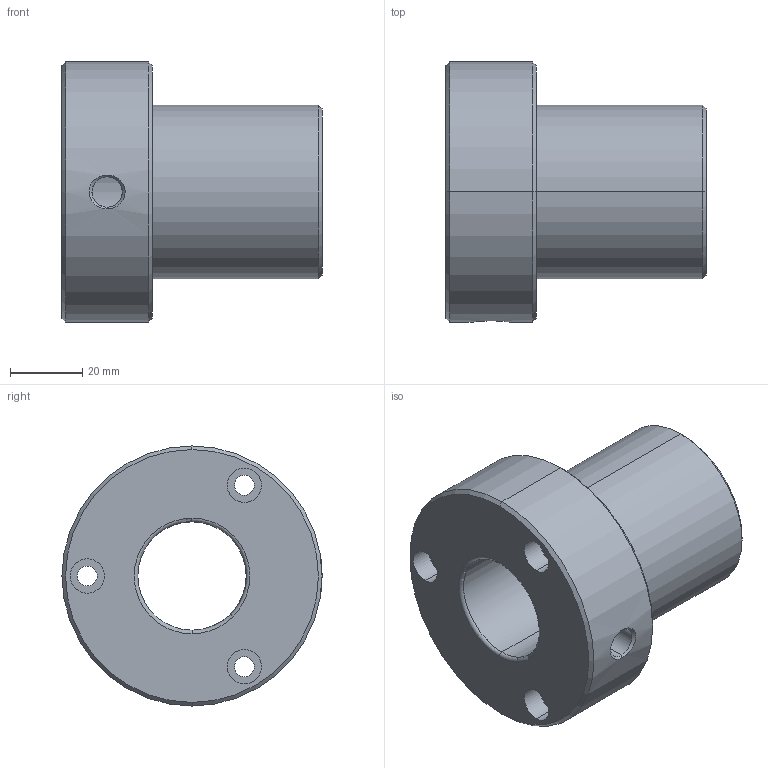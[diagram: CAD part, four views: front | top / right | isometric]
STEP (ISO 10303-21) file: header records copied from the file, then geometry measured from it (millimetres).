
FILE_DESCRIPTION(('CATIA V5 STEP Exchange'),'2;1');
FILE_NAME('C:\Users\Utente\Desktop\IO LAVORO\3D X SITO CF\X SITO\345-346\345-30.stp','2020-12-25T21:16:30+00:00',('none'),('none'),'CATIA Version 5 Release 20 GA (IN-10)','CATIA V5 STEP AP203','none');
FILE_SCHEMA(('CONFIG_CONTROL_DESIGN'));
Length unit declared in the file: millimetre
Products named in the file (1): 345-30
Bounding box: 72 x 72 x 72 mm (x, y, z)
Volume: 131046.5 mm3; surface area: 27725.8 mm2
Topology: 1 solids, 1 shells, 39 faces, 170 edges, 138 vertices
Faces by surface type: cylinder 22, cone 8, plane 7, torus 2
Entity records: 2143 total; most frequent: CARTESIAN_POINT 685, ORIENTED_EDGE 340, DIRECTION 222, EDGE_CURVE 170, AXIS2_PLACEMENT_3D 154, VERTEX_POINT 138, CIRCLE 114, EDGE_LOOP 54
